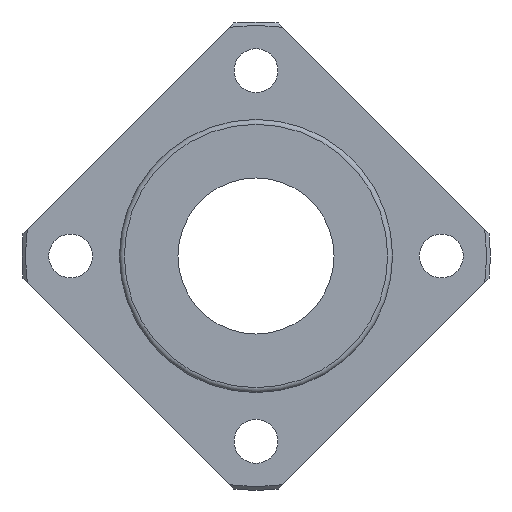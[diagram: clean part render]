
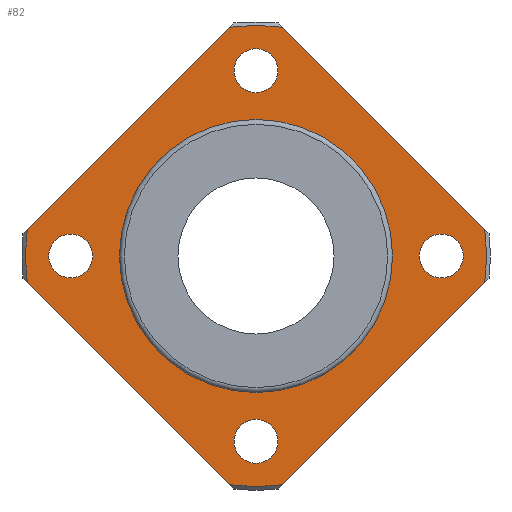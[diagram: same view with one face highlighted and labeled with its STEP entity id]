
A CAD part, left-side view. The second image highlights one B-rep face of the part: STEP entity #82.
In plain terms, the highlighted planar face has unit normal (-1, 0, 0).
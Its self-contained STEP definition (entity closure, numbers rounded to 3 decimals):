
#82=ADVANCED_FACE('',(#134,#135,#136,#137,#138,#139),#140,.T.);
#134=FACE_BOUND('',#249,.T.);
#135=FACE_BOUND('',#250,.T.);
#136=FACE_BOUND('',#251,.T.);
#137=FACE_BOUND('',#252,.T.);
#138=FACE_BOUND('',#253,.T.);
#139=FACE_OUTER_BOUND('',#254,.T.);
#140=PLANE('',#255);
#249=EDGE_LOOP('',(#402));
#250=EDGE_LOOP('',(#403));
#251=EDGE_LOOP('',(#404));
#252=EDGE_LOOP('',(#405));
#253=EDGE_LOOP('',(#406));
#254=EDGE_LOOP('',(#407,#408,#409,#410,#411,#412,#413,#414));
#255=AXIS2_PLACEMENT_3D('',#415,#416,#417);
#402=ORIENTED_EDGE('',*,*,#654,.F.);
#403=ORIENTED_EDGE('',*,*,#655,.T.);
#404=ORIENTED_EDGE('',*,*,#656,.T.);
#405=ORIENTED_EDGE('',*,*,#657,.T.);
#406=ORIENTED_EDGE('',*,*,#658,.T.);
#407=ORIENTED_EDGE('',*,*,#631,.T.);
#408=ORIENTED_EDGE('',*,*,#622,.T.);
#409=ORIENTED_EDGE('',*,*,#659,.T.);
#410=ORIENTED_EDGE('',*,*,#660,.T.);
#411=ORIENTED_EDGE('',*,*,#661,.T.);
#412=ORIENTED_EDGE('',*,*,#633,.T.);
#413=ORIENTED_EDGE('',*,*,#662,.T.);
#414=ORIENTED_EDGE('',*,*,#641,.T.);
#415=CARTESIAN_POINT('',(-6.0,18.55,0.));
#416=DIRECTION('',(-1.0,0.,0.));
#417=DIRECTION('',(0.,0.0,1.0));
#622=EDGE_CURVE('',#698,#699,#700,.T.);
#631=EDGE_CURVE('',#716,#698,#717,.T.);
#633=EDGE_CURVE('',#719,#720,#721,.T.);
#641=EDGE_CURVE('',#735,#716,#736,.T.);
#654=EDGE_CURVE('',#760,#760,#761,.T.);
#655=EDGE_CURVE('',#762,#762,#763,.T.);
#656=EDGE_CURVE('',#764,#764,#765,.T.);
#657=EDGE_CURVE('',#766,#766,#767,.T.);
#658=EDGE_CURVE('',#768,#768,#769,.T.);
#659=EDGE_CURVE('',#699,#770,#771,.T.);
#660=EDGE_CURVE('',#770,#772,#773,.T.);
#661=EDGE_CURVE('',#772,#719,#774,.T.);
#662=EDGE_CURVE('',#720,#735,#775,.T.);
#698=VERTEX_POINT('',#834);
#699=VERTEX_POINT('',#835);
#700=LINE('',#836,#837);
#716=VERTEX_POINT('',#868);
#717=CIRCLE('',#869,23.6);
#719=VERTEX_POINT('',#874);
#720=VERTEX_POINT('',#875);
#721=LINE('',#876,#877);
#735=VERTEX_POINT('',#906);
#736=LINE('',#907,#908);
#760=VERTEX_POINT('',#944);
#761=CIRCLE('',#945,13.5);
#762=VERTEX_POINT('',#946);
#763=CIRCLE('',#947,2.25);
#764=VERTEX_POINT('',#948);
#765=CIRCLE('',#949,2.25);
#766=VERTEX_POINT('',#950);
#767=CIRCLE('',#951,2.25);
#768=VERTEX_POINT('',#952);
#769=CIRCLE('',#953,2.25);
#770=VERTEX_POINT('',#954);
#771=CIRCLE('',#955,23.6);
#772=VERTEX_POINT('',#956);
#773=LINE('',#957,#958);
#774=CIRCLE('',#959,23.6);
#775=CIRCLE('',#960,23.6);
#834=CARTESIAN_POINT('',(-6.0,-23.443,2.72));
#835=CARTESIAN_POINT('',(-6.0,-2.72,23.443));
#836=CARTESIAN_POINT('',(-6.0,-3.806,22.356));
#837=VECTOR('',#1034,1.0);
#868=CARTESIAN_POINT('',(-6.0,-23.443,-2.72));
#869=AXIS2_PLACEMENT_3D('',#1041,#1042,#1043);
#874=CARTESIAN_POINT('',(-6.0,23.443,-2.72));
#875=CARTESIAN_POINT('',(-6.0,2.72,-23.443));
#876=CARTESIAN_POINT('',(-6.0,22.356,-3.806));
#877=VECTOR('',#1044,1.0);
#906=CARTESIAN_POINT('',(-6.0,-2.72,-23.443));
#907=CARTESIAN_POINT('',(-6.0,-3.806,-22.356));
#908=VECTOR('',#1048,1.0);
#944=CARTESIAN_POINT('',(-6.0,13.5,0.));
#945=AXIS2_PLACEMENT_3D('',#1070,#1071,#1072);
#946=CARTESIAN_POINT('',(-6.0,19.0,2.25));
#947=AXIS2_PLACEMENT_3D('',#1073,#1074,#1075);
#948=CARTESIAN_POINT('',(-6.0,-19.0,2.25));
#949=AXIS2_PLACEMENT_3D('',#1076,#1077,#1078);
#950=CARTESIAN_POINT('',(-6.0,0.,21.25));
#951=AXIS2_PLACEMENT_3D('',#1079,#1080,#1081);
#952=CARTESIAN_POINT('',(-6.0,0.,-16.75));
#953=AXIS2_PLACEMENT_3D('',#1082,#1083,#1084);
#954=CARTESIAN_POINT('',(-6.0,2.72,23.443));
#955=AXIS2_PLACEMENT_3D('',#1085,#1086,#1087);
#956=CARTESIAN_POINT('',(-6.0,23.443,2.72));
#957=CARTESIAN_POINT('',(-6.0,22.356,3.806));
#958=VECTOR('',#1088,1.0);
#959=AXIS2_PLACEMENT_3D('',#1089,#1090,#1091);
#960=AXIS2_PLACEMENT_3D('',#1092,#1093,#1094);
#1034=DIRECTION('',(0.,0.707,0.707));
#1041=CARTESIAN_POINT('',(-6.0,0.,0.));
#1042=DIRECTION('',(-1.0,0.0,0.));
#1043=DIRECTION('',(0.0,1.0,0.0));
#1044=DIRECTION('',(0.,-0.707,-0.707));
#1048=DIRECTION('',(0.,-0.707,0.707));
#1070=CARTESIAN_POINT('',(-6.0,0.,0.));
#1071=DIRECTION('',(-1.0,0.0,0.));
#1072=DIRECTION('',(0.0,1.0,0.0));
#1073=CARTESIAN_POINT('',(-6.0,19.0,0.));
#1074=DIRECTION('',(1.0,0.,0.));
#1075=DIRECTION('',(0.,0.0,-1.0));
#1076=CARTESIAN_POINT('',(-6.0,-19.0,0.));
#1077=DIRECTION('',(1.0,0.,0.));
#1078=DIRECTION('',(0.,0.0,-1.0));
#1079=CARTESIAN_POINT('',(-6.0,0.,19.0));
#1080=DIRECTION('',(1.0,0.,0.));
#1081=DIRECTION('',(0.,0.0,-1.0));
#1082=CARTESIAN_POINT('',(-6.0,0.,-19.0));
#1083=DIRECTION('',(1.0,0.,0.));
#1084=DIRECTION('',(0.,0.0,-1.0));
#1085=CARTESIAN_POINT('',(-6.0,0.,0.));
#1086=DIRECTION('',(-1.0,0.0,0.));
#1087=DIRECTION('',(0.0,1.0,0.0));
#1088=DIRECTION('',(0.,0.707,-0.707));
#1089=CARTESIAN_POINT('',(-6.0,0.,0.));
#1090=DIRECTION('',(-1.0,0.0,0.));
#1091=DIRECTION('',(0.0,1.0,0.0));
#1092=CARTESIAN_POINT('',(-6.0,0.,0.));
#1093=DIRECTION('',(-1.0,0.0,0.));
#1094=DIRECTION('',(0.0,1.0,0.0));
